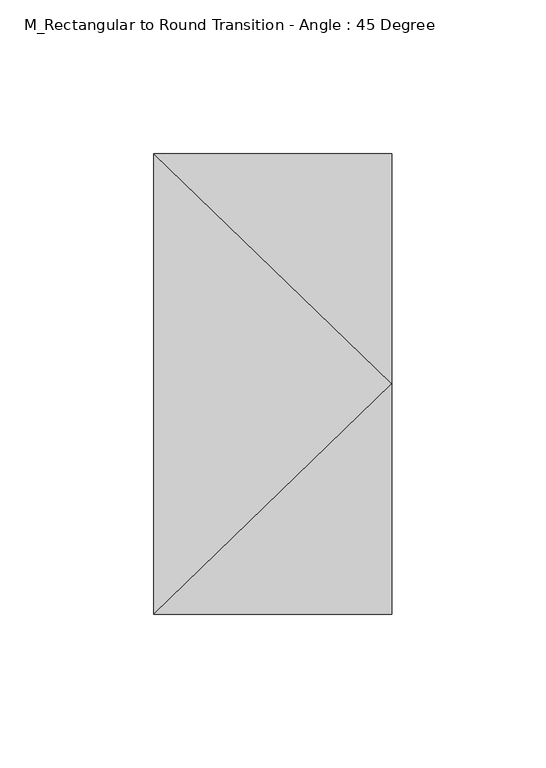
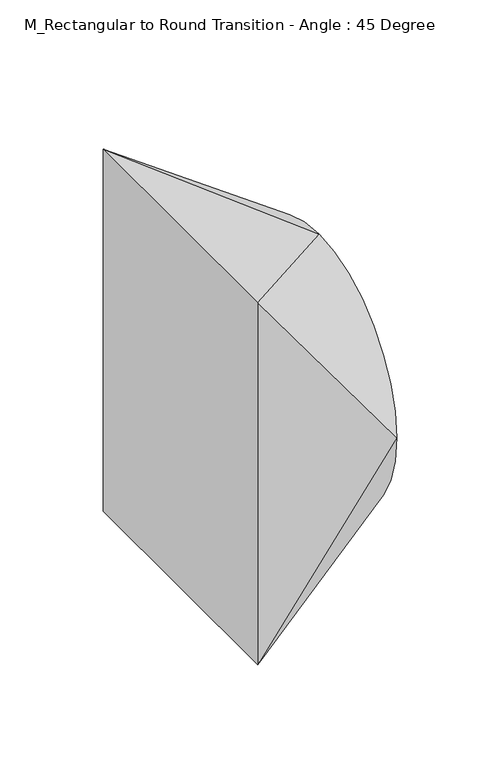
"""IFC4 building model written with IfcOpenShell, lengths in millimetres: duct fitting geometry, M_Rectangular to Round Transition - Angle : 45 Degree."""

import ifcopenshell
import ifcopenshell.guid

model = None  # the IFC model being written
_history = None  # IfcOwnerHistory: only IFC2X3 demands one
_inside = {}  # id of a spatial element -> (the spatial element, [elements in it])
_under = {}  # id of a project, library or spatial element -> (it, [spatial elements below it])
_declared = {}  # id of a project -> (the project, [libraries it declares])
_typed = {}  # id of a type object -> (the type object, [elements of that type])
_made_of = {}  # id of a material, layer set ... -> (it, [elements and type objects made of it])


def new_model(schema):
    """Start an empty IFC model of exactly this schema.

    Asked for "IFC4X3", IfcOpenShell would pick the latest addendum, in which some entities
    have other attributes; the version numbers below select the first issue.
    IFC2X3 requires an IfcOwnerHistory on every rooted entity: one is made here for all.
    """
    global model, _history
    if schema == "IFC4X3":
        model = ifcopenshell.file(schema_version=(4, 3, 0, 0))
    else:
        model = ifcopenshell.file(schema=schema)
    _inside.clear()
    _under.clear()
    _declared.clear()
    _typed.clear()
    _made_of.clear()
    _history = None
    if model.schema == "IFC2X3":
        org = make("IfcOrganization", Name="unknown")
        user = make(
            "IfcPersonAndOrganization",
            ThePerson=make("IfcPerson", FamilyName="unknown"),
            TheOrganization=org,
        )
        app = make(
            "IfcApplication",
            ApplicationDeveloper=org,
            Version="unknown",
            ApplicationFullName="unknown",
            ApplicationIdentifier="unknown",
        )
        _history = make(
            "IfcOwnerHistory",
            OwningUser=user,
            OwningApplication=app,
            ChangeAction="ADDED",
            CreationDate=0,
        )
    return model


def make(cls, **values):
    """One entity of the class cls with the attributes given. An attribute that is None is left unset."""
    return model.create_entity(
        cls, **{name: value for name, value in values.items() if value is not None}
    )


def rooted(cls, **values):
    """An entity with a GlobalId (a new one), such as an element, a storey or a relation."""
    return make(cls, GlobalId=ifcopenshell.guid.new(), OwnerHistory=_history, **values)


def si_unit(unit_type, name, prefix=None):
    """IfcSIUnit, for example si_unit("LENGTHUNIT", "METRE", prefix="MILLI")."""
    return make("IfcSIUnit", UnitType=unit_type, Prefix=prefix, Name=name)


def assignment(units):
    """IfcUnitAssignment: the units of a project."""
    return None if units is None else make("IfcUnitAssignment", Units=units)


def point(xyz):
    """IfcCartesianPoint."""
    return None if xyz is None else make("IfcCartesianPoint", Coordinates=xyz)


def direction(xyz):
    """IfcDirection."""
    return None if xyz is None else make("IfcDirection", DirectionRatios=xyz)


def frame(location, z_axis=None, x_axis=None):
    """IfcAxis2Placement3D, a coordinate frame: its origin and axes. An axis left out is left unset."""
    return make(
        "IfcAxis2Placement3D",
        Location=point(location),
        Axis=direction(z_axis),
        RefDirection=direction(x_axis),
    )


def origin():
    """The frame at (0, 0, 0) with its axes left unset."""
    return frame((0.0, 0.0, 0.0))


def place(relative_to, where):
    """IfcLocalPlacement: puts the frame where relative to a parent placement (None: the world)."""
    return make(
        "IfcLocalPlacement", PlacementRelTo=relative_to, RelativePlacement=where
    )


def context(
    kind, dimensions, precision=None, world=None, true_north=None, identifier=None
):
    """IfcGeometricRepresentationContext, for example the 3D "Model" context."""
    return make(
        "IfcGeometricRepresentationContext",
        ContextIdentifier=identifier,
        ContextType=kind,
        CoordinateSpaceDimension=dimensions,
        Precision=precision,
        WorldCoordinateSystem=world,
        TrueNorth=true_north,
    )


def project(units=None, contexts=None):
    """IfcProject with its units and contexts."""
    return rooted(
        "IfcProject",
        Name="project",
        RepresentationContexts=contexts,
        UnitsInContext=assignment(units),
    )


def spatial(cls, under=None, at=None, **own):
    """A site, building, storey or space (cls), placed at a placement, below another one or the project."""
    s = rooted(cls, ObjectPlacement=at, **own)
    if under is not None:
        _under.setdefault(under.id(), (under, []))[1].append(s)
    return s


def circle_curve(where, radius):
    """IfcCircle in the frame where."""
    return make("IfcCircle", Position=where, Radius=radius)


def shape(context_of_items, identifier, shape_type, items):
    """IfcShapeRepresentation: the items that make up one representation, for example the "Body"."""
    return make(
        "IfcShapeRepresentation",
        ContextOfItems=context_of_items,
        RepresentationIdentifier=identifier,
        RepresentationType=shape_type,
        Items=items,
    )


def source(mapping_origin, context_of_items, identifier, shape_type, items):
    """IfcRepresentationMap: a shape defined once, which mapped items show again and again."""
    return make(
        "IfcRepresentationMap",
        MappingOrigin=mapping_origin,
        MappedRepresentation=shape(context_of_items, identifier, shape_type, items),
    )


def transform(
    local_origin,
    x_axis=None,
    y_axis=None,
    z_axis=None,
    scale=None,
    scale2=None,
    scale3=None,
    uniform=True,
):
    """IfcCartesianTransformationOperator3D, or its non-uniform kind. x_axis, y_axis, z_axis: its Axis1, 2, 3."""
    if uniform:
        return make(
            "IfcCartesianTransformationOperator3D",
            Axis1=direction(x_axis),
            Axis2=direction(y_axis),
            LocalOrigin=point(local_origin),
            Scale=scale,
            Axis3=direction(z_axis),
        )
    return make(
        "IfcCartesianTransformationOperator3DnonUniform",
        Axis1=direction(x_axis),
        Axis2=direction(y_axis),
        LocalOrigin=point(local_origin),
        Scale=scale,
        Axis3=direction(z_axis),
        Scale2=scale2,
        Scale3=scale3,
    )


def mapped(mapping_source, mapping_target):
    """IfcMappedItem: shows the shape of a source again, moved by a transform."""
    return make(
        "IfcMappedItem", MappingSource=mapping_source, MappingTarget=mapping_target
    )


def made_of(thing, what):
    """Note that an element or type object is made of a material, layer set ...; save() writes the relation."""
    if what is not None:
        _made_of.setdefault(what.id(), (what, []))[1].append(thing)
    return thing


def element(
    cls,
    number,
    at=None,
    inside=None,
    cuts=None,
    type_object=None,
    material=None,
    context=None,
    identifier="Body",
    shape_type=None,
    held_by="IfcProductDefinitionShape",
    body=None,
    shapes=None,
    **own,
):
    """One element of the class cls, such as IfcWall. Its Tag is "e" and its number.

    at: its placement. inside: the storey or other place that contains it. cuts: it is an
    opening in that element (IfcRelVoidsElement). A single representation is given by context,
    identifier, shape_type and body (its items); several are given by shapes. held_by: the class
    of the entity that holds the representations. save() writes the other relations.
    """
    e = rooted(cls, Tag="e%d" % number, ObjectPlacement=at, **own)
    if body is not None:
        shapes = [shape(context, identifier, shape_type, body)]
    if shapes is not None:
        e.Representation = make(held_by, Representations=shapes)
    if inside is not None:
        _inside.setdefault(inside.id(), (inside, []))[1].append(e)
    if cuts is not None:
        rooted(
            "IfcRelVoidsElement", RelatingBuildingElement=cuts, RelatedOpeningElement=e
        )
    if type_object is not None:
        _typed.setdefault(type_object.id(), (type_object, []))[1].append(e)
    return made_of(e, material)


def aggregate(whole, parts):
    """IfcRelAggregates: a whole, such as a stair, and the parts it consists of."""
    return rooted("IfcRelAggregates", RelatingObject=whole, RelatedObjects=parts)


def save(model, path):
    """Write the relations noted so far, then the file.

    IfcRelAggregates (storeys below a building ...), IfcRelContainedInSpatialStructure (elements
    in a storey), IfcRelDefinesByType, IfcRelAssociatesMaterial and IfcRelDeclares: one each for
    every whole, place, type object, material and project.
    """
    for whole, parts in _under.values():
        aggregate(whole, parts)
    for where, things in _inside.values():
        rooted(
            "IfcRelContainedInSpatialStructure",
            RelatedElements=things,
            RelatingStructure=where,
        )
    for kind, things in _typed.values():
        rooted("IfcRelDefinesByType", RelatedObjects=things, RelatingType=kind)
    for what, things in _made_of.values():
        rooted("IfcRelAssociatesMaterial", RelatedObjects=things, RelatingMaterial=what)
    for by, libraries in _declared.values():
        rooted("IfcRelDeclares", RelatingContext=by, RelatedDefinitions=libraries)
    model.write(path)


def plane_surface(at):
    """IfcPlane: the flat surface through the origin of the frame at, square to its z axis."""
    return make("IfcPlane", Position=at)


def spline_surface(u_degree, v_degree, points, u_multiplicities, v_multiplicities, u_knots, v_knots, weights=None):
    """IfcBSplineSurfaceWithKnots; with weights, IfcRationalBSplineSurfaceWithKnots. points: one row for each step in u."""
    own = dict(
        UDegree=u_degree,
        VDegree=v_degree,
        ControlPointsList=[[point(p) for p in row] for row in points],
        SurfaceForm="UNSPECIFIED",
        UClosed=False,
        VClosed=False,
        SelfIntersect=False,
        UMultiplicities=u_multiplicities,
        VMultiplicities=v_multiplicities,
        UKnots=u_knots,
        VKnots=v_knots,
        KnotSpec="UNSPECIFIED",
    )
    if weights is None:
        return make("IfcBSplineSurfaceWithKnots", **own)
    return make("IfcRationalBSplineSurfaceWithKnots", WeightsData=weights, **own)


def advanced_brep(points, edges, surfaces, faces):
    """IfcAdvancedBrep: a solid bounded by faces that lie on surfaces and meet in shared edges.

    An edge is (start, end): straight between two places in points (the first is 0);
    or (start, end, curve); or (start, end, curve, False) where it runs against its curve.
    A face is (place in surfaces, loops), or (place, loops, False) where it looks against
    its surface's normal. A loop lists edges by number (the first is 1), with a minus sign
    where the edge is run from its end to its start. The first loop is the outer one.
    """
    corners = [point(p) for p in points]
    vertices = [make("IfcVertexPoint", VertexGeometry=c) for c in corners]
    made = []
    for start, end, *more in edges:
        made.append(
            make(
                "IfcEdgeCurve",
                EdgeStart=vertices[start],
                EdgeEnd=vertices[end],
                EdgeGeometry=more[0] if more else make("IfcPolyline", Points=[corners[start], corners[end]]),
                SameSense=more[1] if len(more) > 1 else True,
            )
        )
    hull = []
    for where, loops, *sense in faces:
        bounds = []
        for j, loop in enumerate(loops):
            ring = [make("IfcOrientedEdge", EdgeElement=made[abs(k) - 1], Orientation=k > 0) for k in loop]
            bounds.append(
                make(
                    "IfcFaceOuterBound" if j == 0 else "IfcFaceBound",
                    Bound=make("IfcEdgeLoop", EdgeList=ring),
                    Orientation=True,
                )
            )
        hull.append(make("IfcAdvancedFace", Bounds=bounds, FaceSurface=surfaces[where], SameSense=sense[0] if sense else True))
    return make("IfcAdvancedBrep", Outer=make("IfcClosedShell", CfsFaces=hull))


def m_rectangular_to_round_transition_angle_45_degree_d6eaa12c(model_context):
    return source(origin(), model_context, "Body", "AdvancedBrep", [
        advanced_brep(
        [(77.616966, 0.0, 75.0), (77.616966, -75.0, 0.0), (77.616966, 0.0, -75.0), (77.616966, 75.0, 0.0), (0.0, -75.0, 107.15), (0.0, 75.0, 107.15), (0.0, 75.0, -107.15), (0.0, -75.0, -107.15)],
        [
            (0, 1, circle_curve(frame((77.616966, 0.0, 0.0), z_axis=(1.0, 0.0, 0.0), x_axis=(0.0, 1.0, 0.0)), 75.0)),
            (1, 2, circle_curve(frame((77.616966, 0.0, 0.0), z_axis=(1.0, 0.0, 0.0), x_axis=(0.0, 1.0, 0.0)), 75.0)),
            (2, 3, circle_curve(frame((77.616966, 0.0, 0.0), z_axis=(1.0, 0.0, 0.0), x_axis=(0.0, 1.0, 0.0)), 75.0)),
            (3, 0, circle_curve(frame((77.616966, 0.0, 0.0), z_axis=(1.0, 0.0, 0.0), x_axis=(0.0, 1.0, 0.0)), 75.0)),
            (4, 5),
            (5, 6),
            (6, 7),
            (7, 4),
            (0, 4),
            (4, 1),
            (7, 1),
            (7, 2),
            (6, 2),
            (6, 3),
            (5, 3),
            (5, 0),
        ],
        [
            plane_surface(frame((77.616966, 0.0, 0.0), z_axis=(1.0, 0.0, 0.0), x_axis=(0.0, 0.0, -1.0))),
            plane_surface(frame((0.0, 0.0, 0.0), z_axis=(-1.0, 0.0, 0.0), x_axis=(0.0, 0.0, -1.0))),
            spline_surface(2, 1, [[(0.0, -75.0, 107.15), (77.616966, 0.0, 75.0)], [(0.0, -75.0, 107.15), (77.616966, -75.0, 75.0)], [(0.0, -75.0, 107.15), (77.616966, -75.0, 0.0)]], [3, 3], [2, 2], [0.0, 1.0], [0.0, 1.0], weights=[[1.0, 1.0], [0.7071067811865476, 0.7071067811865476], [1.0, 1.0]]),
            plane_surface(frame((0.0, -75.0, 0.0), z_axis=(0.0, -1.0, 0.0), x_axis=(0.0, 0.0, -1.0))),
            spline_surface(2, 1, [[(0.0, -75.0, -107.15), (77.616966, -75.0, 0.0)], [(0.0, -75.0, -107.15), (77.616966, -75.0, -75.0)], [(0.0, -75.0, -107.15), (77.616966, 0.0, -75.0)]], [3, 3], [2, 2], [0.0, 1.0], [0.0, 1.0], weights=[[1.0, 1.0], [0.7071067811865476, 0.7071067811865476], [1.0, 1.0]]),
            plane_surface(frame((0.0, 0.0, -107.15), z_axis=(0.38268343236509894, 0.0, -0.923879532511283), x_axis=(0.0, 1.0, 0.0))),
            spline_surface(2, 1, [[(0.0, 75.0, -107.15), (77.616966, 0.0, -75.0)], [(0.0, 75.0, -107.15), (77.616966, 75.0, -75.0)], [(0.0, 75.0, -107.15), (77.616966, 75.0, 0.0)]], [3, 3], [2, 2], [0.0, 1.0], [0.0, 1.0], weights=[[1.0, 1.0], [0.7071067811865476, 0.7071067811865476], [1.0, 1.0]]),
            plane_surface(frame((0.0, 75.0, 0.0), z_axis=(0.0, 1.0, 0.0), x_axis=(0.0, 0.0, 1.0))),
            spline_surface(2, 1, [[(0.0, 75.0, 107.15), (77.616966, 75.0, 0.0)], [(0.0, 75.0, 107.15), (77.616966, 75.0, 75.0)], [(0.0, 75.0, 107.15), (77.616966, 0.0, 75.0)]], [3, 3], [2, 2], [0.0, 1.0], [0.0, 1.0], weights=[[1.0, 1.0], [0.7071067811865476, 0.7071067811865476], [1.0, 1.0]]),
            plane_surface(frame((0.0, 0.0, 107.15), z_axis=(0.3826834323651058, 0.0, 0.9238795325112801), x_axis=(0.0, -1.0, 0.0))),
        ],
        [
            (0, [[1, 2, 3, 4]]),
            (1, [[5, 6, 7, 8]]),
            (2, [[-1, 9, 10]]),
            (3, [[-8, 11, -10]]),
            (4, [[-2, -11, 12]]),
            (5, [[-7, 13, -12]]),
            (6, [[-3, -13, 14]]),
            (7, [[-6, 15, -14]]),
            (8, [[-4, -15, 16]]),
            (9, [[-5, -9, -16]]),
        ],
    ),
    ])


if __name__ == "__main__":
    model = new_model("IFC4")
    model_context = context("Model", 3, world=origin())
    ifc_project = project(units=[si_unit("LENGTHUNIT", "METRE", prefix="MILLI")], contexts=[model_context])
    site = spatial("IfcSite", under=ifc_project)
    building = spatial("IfcBuilding", under=site)
    placement = place(None, origin())
    m_rectangular_to_round_transition_angle_45_degree_shape = m_rectangular_to_round_transition_angle_45_degree_d6eaa12c(model_context)
    element("IfcDuctFitting", 1, ObjectType="M_Rectangular to Round Transition - Angle : 45 Degree", at=placement, inside=building, context=model_context, shape_type="MappedRepresentation", body=[
        mapped(m_rectangular_to_round_transition_angle_45_degree_shape, transform((0.0, 0.0, 0.0), x_axis=(1.0, 0.0, 0.0), y_axis=(0.0, 1.0, 0.0), z_axis=(0.0, 0.0, 1.0))),
    ])
    save(model, "model.ifc")
